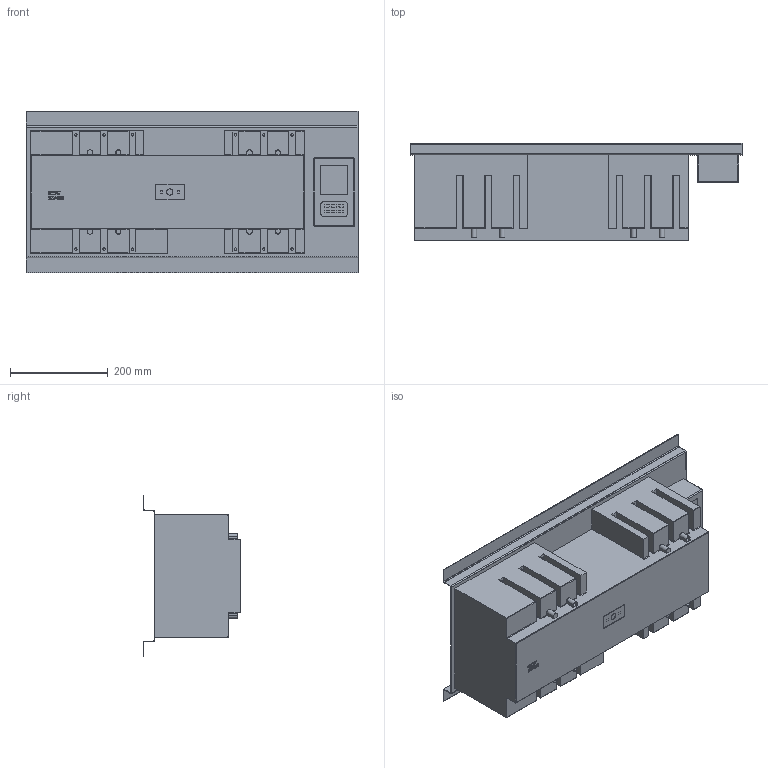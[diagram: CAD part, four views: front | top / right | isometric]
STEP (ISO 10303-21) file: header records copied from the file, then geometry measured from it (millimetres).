
FILE_DESCRIPTION(/* description */ ('','CAx-IF Rec.Pracs.---Representation and Presentation of Product Manufacturing Information (PMI)---3.8---2014-02-18'),/* implementation_level */ '2;1');
FILE_NAME(/* name */ 'C:\Users\ILYA\Desktop\NZ7\NZ7-630(3P)\NZ7-630(3P).stp',/* time_stamp */ '2017-08-16T22:14:54+03:00',/* author */ ('ILYA'),/* organization */ (''),/* preprocessor_version */ 'ST-DEVELOPER v16.1',/* originating_system */ 'Autodesk Inventor 2016',/* authorisation */ '');
FILE_SCHEMA (('AP242_MANAGED_MODEL_BASED_3D_ENGINEERING_MIM_LF { 1 0 10303 442 1 1 4 }'));
Length unit declared in the file: millimetre
Products named in the file (1): NZ7-630(3P)
Bounding box: 680 x 200 x 330 mm (x, y, z)
Volume: 21183975.7 mm3; surface area: 979463.5 mm2
Topology: 1 solids, 1 shells, 503 faces, 1323 edges, 866 vertices
Faces by surface type: plane 297, cylinder 136, bspline 66, sphere 4
Full cylindrical faces by diameter (mm): 5 x12, 13 x1
Entity records: 15996 total; most frequent: CARTESIAN_POINT 3741, ORIENTED_EDGE 2620, DIRECTION 2298, EDGE_CURVE 1310, LINE 934, VECTOR 934, VERTEX_POINT 866, AXIS2_PLACEMENT_3D 682
